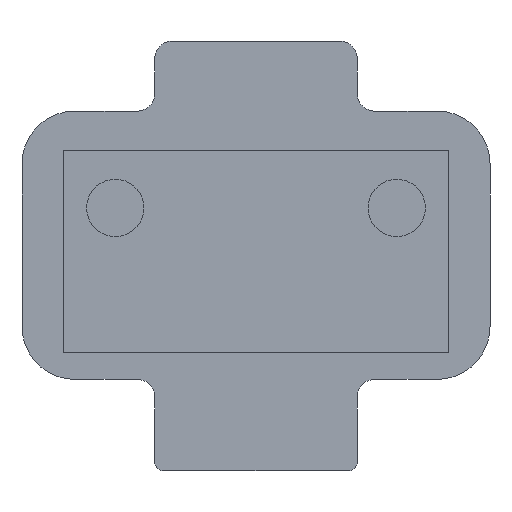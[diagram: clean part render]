
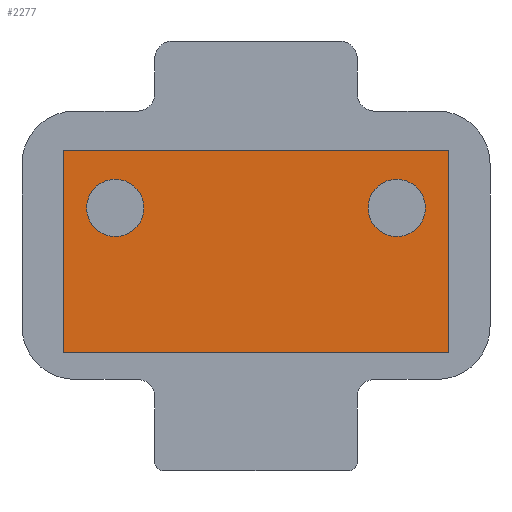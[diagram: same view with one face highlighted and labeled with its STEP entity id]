
A CAD part, front view. The second image highlights one B-rep face of the part: STEP entity #2277.
In plain terms, the highlighted planar face has unit normal (0, -1, 0).
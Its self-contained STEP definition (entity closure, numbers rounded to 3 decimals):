
#69 = CARTESIAN_POINT ( 'NONE',  ( 20.984, 1.162, 76.47 ) ) ;
#125 = EDGE_CURVE ( 'NONE', #767, #7055, #6025, .T. ) ;
#181 = VECTOR ( 'NONE', #3654, 1000. ) ;
#427 = CIRCLE ( 'NONE', #6347, 3.25 ) ;
#560 = ORIENTED_EDGE ( 'NONE', *, *, #2802, .F. ) ;
#767 = VERTEX_POINT ( 'NONE', #8207 ) ;
#1009 = EDGE_LOOP ( 'NONE', ( #9544, #5889 ) ) ;
#1265 = CIRCLE ( 'NONE', #5162, 3.25 ) ;
#1404 = CARTESIAN_POINT ( 'NONE',  ( -16.362, 1.162, 58.966 ) ) ;
#1417 = EDGE_CURVE ( 'NONE', #7055, #767, #427, .T. ) ;
#1591 = DIRECTION ( 'NONE',  ( 0., 0., 1. ) ) ;
#1772 = ORIENTED_EDGE ( 'NONE', *, *, #8552, .F. ) ;
#1942 = CARTESIAN_POINT ( 'NONE',  ( 15.084, 1.162, 59.199 ) ) ;
#2079 = ORIENTED_EDGE ( 'NONE', *, *, #5537, .F. ) ;
#2091 = FACE_BOUND ( 'NONE', #1009, .T. ) ;
#2277 = ADVANCED_FACE ( 'NONE', ( #8104, #5023, #2091 ), #5119, .F. ) ;
#2802 = EDGE_CURVE ( 'NONE', #3812, #8946, #8929, .T. ) ;
#2815 = VERTEX_POINT ( 'NONE', #3939 ) ;
#3015 = LINE ( 'NONE', #69, #4697 ) ;
#3368 = DIRECTION ( 'NONE',  ( -1., 0., 0. ) ) ;
#3385 = CARTESIAN_POINT ( 'NONE',  ( -16.916, 1.162, 59.199 ) ) ;
#3654 = DIRECTION ( 'NONE',  ( 0., 0., 1. ) ) ;
#3742 = DIRECTION ( 'NONE',  ( 1., 0., 0. ) ) ;
#3812 = VERTEX_POINT ( 'NONE', #5708 ) ;
#3939 = CARTESIAN_POINT ( 'NONE',  ( -16.916, 1.162, 62.449 ) ) ;
#4098 = DIRECTION ( 'NONE',  ( 0., 0., 1. ) ) ;
#4238 = CIRCLE ( 'NONE', #5492, 3.25 ) ;
#4288 = DIRECTION ( 'NONE',  ( 0., 1., 0. ) ) ;
#4360 = ORIENTED_EDGE ( 'NONE', *, *, #125, .F. ) ;
#4618 = DIRECTION ( 'NONE',  ( 0., -1., 0. ) ) ;
#4697 = VECTOR ( 'NONE', #1591, 1000. ) ;
#4761 = DIRECTION ( 'NONE',  ( 0., 0., 1. ) ) ;
#4817 = EDGE_CURVE ( 'NONE', #7481, #2815, #1265, .T. ) ;
#4926 = DIRECTION ( 'NONE',  ( 0., -1., 0. ) ) ;
#5023 = FACE_BOUND ( 'NONE', #5478, .T. ) ;
#5119 = PLANE ( 'NONE',  #6506 ) ;
#5162 = AXIS2_PLACEMENT_3D ( 'NONE', #3385, #9270, #4761 ) ;
#5418 = AXIS2_PLACEMENT_3D ( 'NONE', #6212, #4618, #9027 ) ;
#5478 = EDGE_LOOP ( 'NONE', ( #4360, #7728 ) ) ;
#5492 = AXIS2_PLACEMENT_3D ( 'NONE', #5511, #6229, #4098 ) ;
#5511 = CARTESIAN_POINT ( 'NONE',  ( -16.916, 1.162, 59.199 ) ) ;
#5537 = EDGE_CURVE ( 'NONE', #8353, #3812, #6664, .T. ) ;
#5708 = CARTESIAN_POINT ( 'NONE',  ( -22.816, 1.162, 65.694 ) ) ;
#5889 = ORIENTED_EDGE ( 'NONE', *, *, #4817, .F. ) ;
#6025 = CIRCLE ( 'NONE', #5418, 3.25 ) ;
#6212 = CARTESIAN_POINT ( 'NONE',  ( 15.084, 1.162, 59.199 ) ) ;
#6229 = DIRECTION ( 'NONE',  ( 0., -1., 0. ) ) ;
#6347 = AXIS2_PLACEMENT_3D ( 'NONE', #1942, #4926, #7920 ) ;
#6506 = AXIS2_PLACEMENT_3D ( 'NONE', #1404, #4288, #8692 ) ;
#6664 = LINE ( 'NONE', #7419, #181 ) ;
#6889 = VECTOR ( 'NONE', #3368, 1000. ) ;
#7019 = CARTESIAN_POINT ( 'NONE',  ( 20.984, 1.162, 65.694 ) ) ;
#7055 = VERTEX_POINT ( 'NONE', #8416 ) ;
#7419 = CARTESIAN_POINT ( 'NONE',  ( -22.816, 1.162, 44.77 ) ) ;
#7481 = VERTEX_POINT ( 'NONE', #8319 ) ;
#7728 = ORIENTED_EDGE ( 'NONE', *, *, #1417, .F. ) ;
#7920 = DIRECTION ( 'NONE',  ( 0., 0., 1. ) ) ;
#8048 = ORIENTED_EDGE ( 'NONE', *, *, #8176, .T. ) ;
#8104 = FACE_OUTER_BOUND ( 'NONE', #9562, .T. ) ;
#8176 = EDGE_CURVE ( 'NONE', #9135, #8946, #3015, .T. ) ;
#8196 = CARTESIAN_POINT ( 'NONE',  ( -22.816, 1.162, 65.694 ) ) ;
#8207 = CARTESIAN_POINT ( 'NONE',  ( 15.084, 1.162, 62.449 ) ) ;
#8319 = CARTESIAN_POINT ( 'NONE',  ( -16.916, 1.162, 55.949 ) ) ;
#8353 = VERTEX_POINT ( 'NONE', #8701 ) ;
#8416 = CARTESIAN_POINT ( 'NONE',  ( 15.084, 1.162, 55.949 ) ) ;
#8552 = EDGE_CURVE ( 'NONE', #9135, #8353, #9380, .T. ) ;
#8692 = DIRECTION ( 'NONE',  ( -1., 0., 0. ) ) ;
#8701 = CARTESIAN_POINT ( 'NONE',  ( -22.816, 1.162, 42.7 ) ) ;
#8850 = EDGE_CURVE ( 'NONE', #2815, #7481, #4238, .T. ) ;
#8883 = VECTOR ( 'NONE', #3742, 1000. ) ;
#8929 = LINE ( 'NONE', #8196, #8883 ) ;
#8946 = VERTEX_POINT ( 'NONE', #7019 ) ;
#9027 = DIRECTION ( 'NONE',  ( 0., 0., 1. ) ) ;
#9135 = VERTEX_POINT ( 'NONE', #9619 ) ;
#9270 = DIRECTION ( 'NONE',  ( 0., -1., 0. ) ) ;
#9294 = CARTESIAN_POINT ( 'NONE',  ( 21.584, 1.162, 42.7 ) ) ;
#9380 = LINE ( 'NONE', #9294, #6889 ) ;
#9544 = ORIENTED_EDGE ( 'NONE', *, *, #8850, .F. ) ;
#9562 = EDGE_LOOP ( 'NONE', ( #2079, #1772, #8048, #560 ) ) ;
#9619 = CARTESIAN_POINT ( 'NONE',  ( 20.984, 1.162, 42.7 ) ) ;
